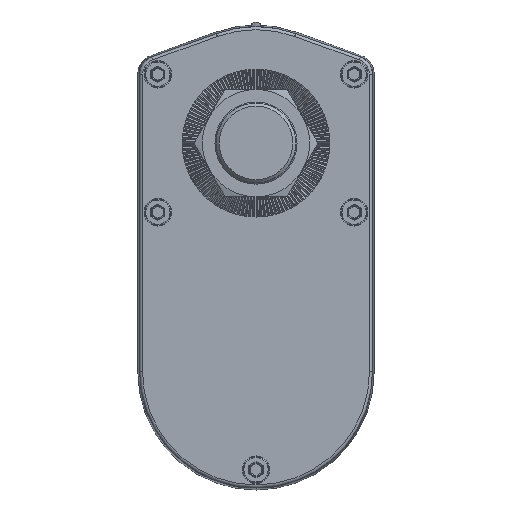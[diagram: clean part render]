
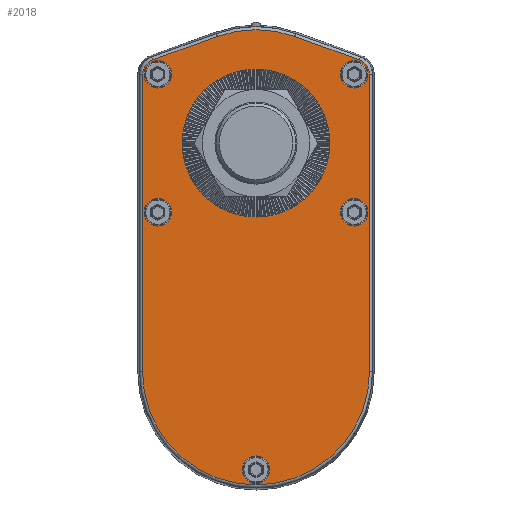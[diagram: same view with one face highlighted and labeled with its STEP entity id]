
A CAD part, top view. The second image highlights one B-rep face of the part: STEP entity #2018.
In plain terms, the highlighted planar face has unit normal (0, 0, 1).
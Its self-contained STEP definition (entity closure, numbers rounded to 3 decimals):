
#1023 = VERTEX_POINT ( 'NONE', #12215 ) ;
#1326 = CARTESIAN_POINT ( 'NONE',  ( -37.012, 22.46, 40. ) ) ;
#1594 = VERTEX_POINT ( 'NONE', #11784 ) ;
#1646 = CARTESIAN_POINT ( 'NONE',  ( -27.5, -22.54, 40. ) ) ;
#1657 = DIRECTION ( 'NONE',  ( 0., 0., 1. ) ) ;
#1806 = EDGE_CURVE ( 'NONE', #6453, #6453, #25847, .T. ) ;
#1889 = CIRCLE ( 'NONE', #4626, 5.017 ) ;
#2018 = ADVANCED_FACE ( 'NONE', ( #11765, #13608, #27205, #4098, #34017, #26282, #18601 ), #31782, .F. ) ;
#2328 = CARTESIAN_POINT ( 'NONE',  ( 37.012, 22.46, 40. ) ) ;
#2437 = EDGE_CURVE ( 'NONE', #36414, #36414, #24913, .T. ) ;
#2570 = DIRECTION ( 'NONE',  ( 0., 0., 1. ) ) ;
#2592 = VECTOR ( 'NONE', #8152, 1000. ) ;
#2930 = CIRCLE ( 'NONE', #11725, 4.5 ) ;
#3715 = CIRCLE ( 'NONE', #22110, 4.5 ) ;
#4098 = FACE_BOUND ( 'NONE', #17372, .T. ) ;
#4407 = LINE ( 'NONE', #2328, #2592 ) ;
#4626 = AXIS2_PLACEMENT_3D ( 'NONE', #22876, #5548, #25815 ) ;
#4632 = VERTEX_POINT ( 'NONE', #27000 ) ;
#5203 = CARTESIAN_POINT ( 'NONE',  ( 0., -106.54, 40. ) ) ;
#5535 = DIRECTION ( 'NONE',  ( 0., 0., 1. ) ) ;
#5548 = DIRECTION ( 'NONE',  ( 0., 0., 1. ) ) ;
#5624 = DIRECTION ( 'NONE',  ( -0.94, -0.34, 0. ) ) ;
#6241 = ORIENTED_EDGE ( 'NONE', *, *, #24985, .T. ) ;
#6275 = VERTEX_POINT ( 'NONE', #14296 ) ;
#6414 = VERTEX_POINT ( 'NONE', #1646 ) ;
#6453 = VERTEX_POINT ( 'NONE', #12422 ) ;
#6721 = CIRCLE ( 'NONE', #35334, 37.017 ) ;
#7145 = AXIS2_PLACEMENT_3D ( 'NONE', #27076, #9714, #29970 ) ;
#7165 = VERTEX_POINT ( 'NONE', #21083 ) ;
#7758 = EDGE_LOOP ( 'NONE', ( #11899 ) ) ;
#8129 = DIRECTION ( 'NONE',  ( 1., 0., 0. ) ) ;
#8152 = DIRECTION ( 'NONE',  ( 0., 1., 0. ) ) ;
#8207 = EDGE_CURVE ( 'NONE', #4632, #4632, #2930, .T. ) ;
#8210 = CARTESIAN_POINT ( 'NONE',  ( 33.701, 27.179, 40. ) ) ;
#8262 = DIRECTION ( 'NONE',  ( 0., 0., 1. ) ) ;
#8929 = ORIENTED_EDGE ( 'NONE', *, *, #22508, .T. ) ;
#9072 = ORIENTED_EDGE ( 'NONE', *, *, #22036, .T. ) ;
#9495 = ORIENTED_EDGE ( 'NONE', *, *, #21160, .F. ) ;
#9563 = DIRECTION ( 'NONE',  ( 0., 0., 1. ) ) ;
#9566 = ORIENTED_EDGE ( 'NONE', *, *, #13450, .T. ) ;
#9714 = DIRECTION ( 'NONE',  ( 0., 0., 1. ) ) ;
#9717 = CARTESIAN_POINT ( 'NONE',  ( -32., 22.46, 40. ) ) ;
#10003 = CARTESIAN_POINT ( 'NONE',  ( -27.5, 22.46, 40. ) ) ;
#10595 = CARTESIAN_POINT ( 'NONE',  ( -37.012, -74.495, 40. ) ) ;
#10972 = VERTEX_POINT ( 'NONE', #1326 ) ;
#11117 = ORIENTED_EDGE ( 'NONE', *, *, #23879, .T. ) ;
#11363 = VERTEX_POINT ( 'NONE', #22031 ) ;
#11365 = AXIS2_PLACEMENT_3D ( 'NONE', #9717, #29973, #12619 ) ;
#11725 = AXIS2_PLACEMENT_3D ( 'NONE', #25602, #8262, #28511 ) ;
#11765 = FACE_OUTER_BOUND ( 'NONE', #22707, .T. ) ;
#11784 = CARTESIAN_POINT ( 'NONE',  ( 12.586, 34.812, 40. ) ) ;
#11899 = ORIENTED_EDGE ( 'NONE', *, *, #8207, .F. ) ;
#12215 = CARTESIAN_POINT ( 'NONE',  ( 37.012, -74.495, 40. ) ) ;
#12422 = CARTESIAN_POINT ( 'NONE',  ( -24.1, 0., 40. ) ) ;
#12619 = DIRECTION ( 'NONE',  ( 1., 0., 0. ) ) ;
#12953 = DIRECTION ( 'NONE',  ( -0.94, 0.34, 0. ) ) ;
#13450 = EDGE_CURVE ( 'NONE', #15487, #10972, #19447, .T. ) ;
#13608 = FACE_BOUND ( 'NONE', #7758, .T. ) ;
#14247 = CARTESIAN_POINT ( 'NONE',  ( -33.701, 27.179, 40. ) ) ;
#14296 = CARTESIAN_POINT ( 'NONE',  ( -12.586, 34.812, 40. ) ) ;
#14428 = DIRECTION ( 'NONE',  ( 0., 0., -1. ) ) ;
#14680 = DIRECTION ( 'NONE',  ( 0., 0., 1. ) ) ;
#14721 = ORIENTED_EDGE ( 'NONE', *, *, #27932, .T. ) ;
#14882 = ORIENTED_EDGE ( 'NONE', *, *, #28483, .F. ) ;
#15487 = VERTEX_POINT ( 'NONE', #26276 ) ;
#16586 = ORIENTED_EDGE ( 'NONE', *, *, #1806, .F. ) ;
#16811 = AXIS2_PLACEMENT_3D ( 'NONE', #26920, #9563, #29822 ) ;
#17034 = EDGE_LOOP ( 'NONE', ( #14882 ) ) ;
#17099 = EDGE_LOOP ( 'NONE', ( #9495 ) ) ;
#17278 = EDGE_CURVE ( 'NONE', #6275, #15487, #29173, .T. ) ;
#17372 = EDGE_LOOP ( 'NONE', ( #25141 ) ) ;
#17796 = AXIS2_PLACEMENT_3D ( 'NONE', #19015, #1657, #21911 ) ;
#18033 = VERTEX_POINT ( 'NONE', #27620 ) ;
#18601 = FACE_BOUND ( 'NONE', #36716, .T. ) ;
#19015 = CARTESIAN_POINT ( 'NONE',  ( 0., 0., 40. ) ) ;
#19212 = DIRECTION ( 'NONE',  ( 0., -1., 0. ) ) ;
#19447 = CIRCLE ( 'NONE', #34029, 5.017 ) ;
#19892 = CARTESIAN_POINT ( 'NONE',  ( -31.995, 22.46, 40. ) ) ;
#20566 = VECTOR ( 'NONE', #5624, 1000. ) ;
#21083 = CARTESIAN_POINT ( 'NONE',  ( -37.012, -74.495, 40. ) ) ;
#21160 = EDGE_CURVE ( 'NONE', #35000, #35000, #21432, .T. ) ;
#21432 = CIRCLE ( 'NONE', #11365, 4.5 ) ;
#21911 = DIRECTION ( 'NONE',  ( -1., 0., 0. ) ) ;
#22031 = CARTESIAN_POINT ( 'NONE',  ( 4.5, -106.54, 40. ) ) ;
#22036 = EDGE_CURVE ( 'NONE', #18033, #36761, #1889, .T. ) ;
#22110 = AXIS2_PLACEMENT_3D ( 'NONE', #32036, #14680, #34960 ) ;
#22508 = EDGE_CURVE ( 'NONE', #7165, #1023, #36346, .T. ) ;
#22707 = EDGE_LOOP ( 'NONE', ( #11117, #8929, #34171, #9072, #14721, #6241, #31194, #9566 ) ) ;
#22794 = DIRECTION ( 'NONE',  ( -1., 0., 0. ) ) ;
#22862 = AXIS2_PLACEMENT_3D ( 'NONE', #23001, #14428, #34711 ) ;
#22865 = CARTESIAN_POINT ( 'NONE',  ( 0., 0., 40. ) ) ;
#22876 = CARTESIAN_POINT ( 'NONE',  ( 31.995, 22.46, 40. ) ) ;
#23001 = CARTESIAN_POINT ( 'NONE',  ( 0., 0., 40. ) ) ;
#23879 = EDGE_CURVE ( 'NONE', #10972, #7165, #28487, .T. ) ;
#24913 = CIRCLE ( 'NONE', #7145, 4.5 ) ;
#24985 = EDGE_CURVE ( 'NONE', #1594, #6275, #6721, .T. ) ;
#25141 = ORIENTED_EDGE ( 'NONE', *, *, #36239, .F. ) ;
#25452 = DIRECTION ( 'NONE',  ( 0., 0., 1. ) ) ;
#25602 = CARTESIAN_POINT ( 'NONE',  ( 32., 22.46, 40. ) ) ;
#25807 = DIRECTION ( 'NONE',  ( -1., 0., 0. ) ) ;
#25815 = DIRECTION ( 'NONE',  ( -1., 0., 0. ) ) ;
#25847 = CIRCLE ( 'NONE', #17796, 24.1 ) ;
#25859 = EDGE_CURVE ( 'NONE', #1023, #18033, #4407, .T. ) ;
#26276 = CARTESIAN_POINT ( 'NONE',  ( -33.701, 27.179, 40. ) ) ;
#26282 = FACE_BOUND ( 'NONE', #17099, .T. ) ;
#26920 = CARTESIAN_POINT ( 'NONE',  ( 0., -74.495, 40. ) ) ;
#27000 = CARTESIAN_POINT ( 'NONE',  ( 27.5, 22.46, 40. ) ) ;
#27076 = CARTESIAN_POINT ( 'NONE',  ( 32., -22.54, 40. ) ) ;
#27205 = FACE_BOUND ( 'NONE', #35640, .T. ) ;
#27620 = CARTESIAN_POINT ( 'NONE',  ( 37.012, 22.46, 40. ) ) ;
#27791 = LINE ( 'NONE', #36171, #28685 ) ;
#27932 = EDGE_CURVE ( 'NONE', #36761, #1594, #27791, .T. ) ;
#28483 = EDGE_CURVE ( 'NONE', #6414, #6414, #3715, .T. ) ;
#28487 = LINE ( 'NONE', #10595, #36229 ) ;
#28511 = DIRECTION ( 'NONE',  ( -1., 0., 0. ) ) ;
#28685 = VECTOR ( 'NONE', #12953, 1000. ) ;
#28767 = CIRCLE ( 'NONE', #36029, 4.5 ) ;
#29173 = LINE ( 'NONE', #14247, #20566 ) ;
#29822 = DIRECTION ( 'NONE',  ( -1., 0., 0. ) ) ;
#29970 = DIRECTION ( 'NONE',  ( -1., 0., 0. ) ) ;
#29973 = DIRECTION ( 'NONE',  ( 0., 0., 1. ) ) ;
#31194 = ORIENTED_EDGE ( 'NONE', *, *, #17278, .T. ) ;
#31782 = PLANE ( 'NONE',  #22862 ) ;
#32036 = CARTESIAN_POINT ( 'NONE',  ( -32., -22.54, 40. ) ) ;
#32687 = CARTESIAN_POINT ( 'NONE',  ( 27.5, -22.54, 40. ) ) ;
#32844 = ORIENTED_EDGE ( 'NONE', *, *, #2437, .F. ) ;
#34017 = FACE_BOUND ( 'NONE', #17034, .T. ) ;
#34029 = AXIS2_PLACEMENT_3D ( 'NONE', #19892, #2570, #22794 ) ;
#34171 = ORIENTED_EDGE ( 'NONE', *, *, #25859, .T. ) ;
#34711 = DIRECTION ( 'NONE',  ( -1., 0., 0. ) ) ;
#34960 = DIRECTION ( 'NONE',  ( 1., 0., 0. ) ) ;
#35000 = VERTEX_POINT ( 'NONE', #10003 ) ;
#35334 = AXIS2_PLACEMENT_3D ( 'NONE', #22865, #5535, #25807 ) ;
#35640 = EDGE_LOOP ( 'NONE', ( #32844 ) ) ;
#36029 = AXIS2_PLACEMENT_3D ( 'NONE', #5203, #25452, #8129 ) ;
#36171 = CARTESIAN_POINT ( 'NONE',  ( 12.586, 34.812, 40. ) ) ;
#36229 = VECTOR ( 'NONE', #19212, 1000. ) ;
#36239 = EDGE_CURVE ( 'NONE', #11363, #11363, #28767, .T. ) ;
#36346 = CIRCLE ( 'NONE', #16811, 37.012 ) ;
#36414 = VERTEX_POINT ( 'NONE', #32687 ) ;
#36716 = EDGE_LOOP ( 'NONE', ( #16586 ) ) ;
#36761 = VERTEX_POINT ( 'NONE', #8210 ) ;
